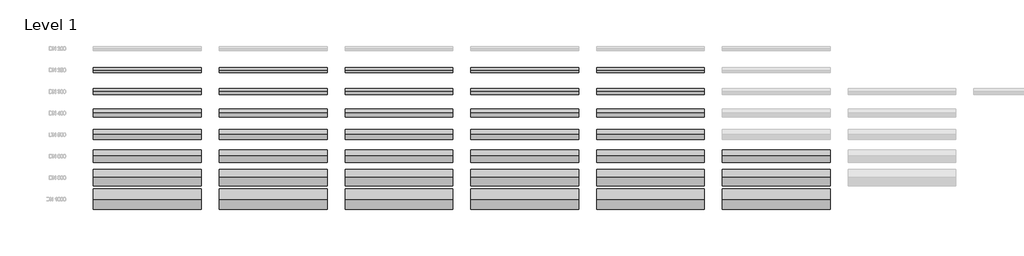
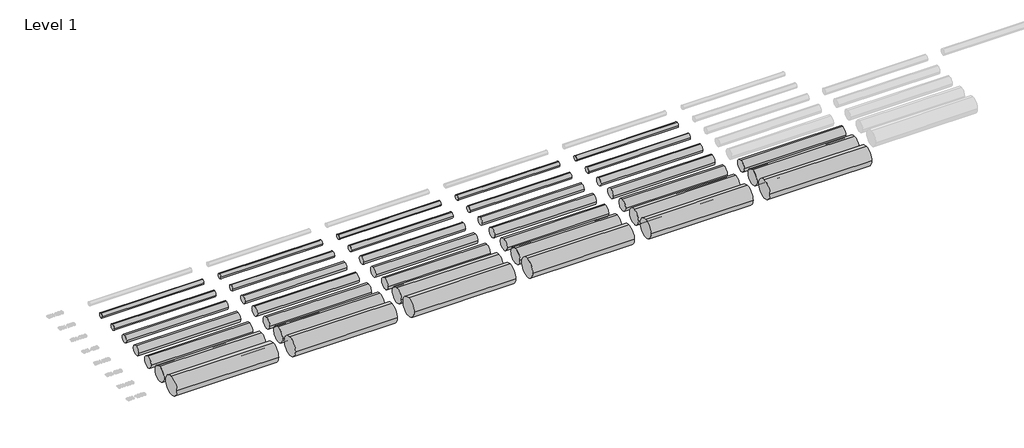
# One storey, part 1 of 10: 38 pipe segments.
"""IFC4 building model written with IfcOpenShell, lengths in millimetres."""

from ifc_helpers import new_model, si_unit, point, frame, frame_2d, origin, place, context, project, spatial, circle_curve, trimmed, segment, composite_curve, outline, extrude, element, save

model = new_model("IFC4")

# Units and contexts
model_context = context("Model", 3, world=origin())
ifc_project = project(units=[si_unit("LENGTHUNIT", "METRE", prefix="MILLI")], contexts=[model_context])

# Site, building, storey
site = spatial("IfcSite", under=ifc_project)
building = spatial("IfcBuilding", under=site)
storey = spatial("IfcBuildingStorey", under=building, Name="Level 1", Elevation=0.0)

# Pipe segments
placement = place(None, origin())
element("IfcPipeSegment", 1, ObjectType="Pipelife Pragma +ID® rura perforowana o podwójnej ściance SN 8 - perforacja 120°", at=placement, inside=storey, context=model_context, shape_type="SweptSolid", body=[
    extrude(outline(composite_curve([segment(trimmed(circle_curve(frame_2d((-613.949573, 0.0)), 142.5), [point((-756.449573, 0.0))], [point((-613.949573, 142.5))], False, "CARTESIAN"), True, "CONTINUOUS"), segment(trimmed(circle_curve(frame_2d((-613.949573, 0.0)), 142.5), [point((-613.949573, 142.5))], [point((-471.449573, 0.0))], False, "CARTESIAN"), True, "CONTINUOUS"), segment(trimmed(circle_curve(frame_2d((-613.949573, 0.0)), 142.5), [point((-471.449573, 0.0))], [point((-613.949573, -142.5))], False, "CARTESIAN"), True, "CONTINUOUS"), segment(trimmed(circle_curve(frame_2d((-613.949573, 0.0)), 142.5), [point((-613.949573, -142.5))], [point((-756.449573, 0.0))], False, "CARTESIAN"), True, "CONTINUOUS")], self_intersect=False)), frame((-17032.6671252, 0.0, 0.0), z_axis=(1.0, 0.0, 0.0), x_axis=(0.0, 1.0, 0.0)), (0.0, 0.0, 1.0), 6000.0),
])
element("IfcPipeSegment", 2, ObjectType="Pipelife Pragma +ID® rura perforowana o podwójnej ściance SN 8 - perforacja 120°", at=placement, inside=storey, context=model_context, shape_type="SweptSolid", body=[
    extrude(outline(composite_curve([segment(trimmed(circle_curve(frame_2d((-1813.949573, 0.0)), 171.5), [point((-1985.449573, 0.0))], [point((-1813.949573, 171.5))], False, "CARTESIAN"), True, "CONTINUOUS"), segment(trimmed(circle_curve(frame_2d((-1813.949573, 0.0)), 171.5), [point((-1813.949573, 171.5))], [point((-1642.449573, 0.0))], False, "CARTESIAN"), True, "CONTINUOUS"), segment(trimmed(circle_curve(frame_2d((-1813.949573, 0.0)), 171.5), [point((-1642.449573, 0.0))], [point((-1813.949573, -171.5))], False, "CARTESIAN"), True, "CONTINUOUS"), segment(trimmed(circle_curve(frame_2d((-1813.949573, 0.0)), 171.5), [point((-1813.949573, -171.5))], [point((-1985.449573, 0.0))], False, "CARTESIAN"), True, "CONTINUOUS")], self_intersect=False)), frame((-17032.6671252, 0.0, 0.0), z_axis=(1.0, 0.0, 0.0), x_axis=(0.0, 1.0, 0.0)), (0.0, 0.0, 1.0), 6000.0),
])
element("IfcPipeSegment", 3, ObjectType="Pipelife Pragma +ID® rura perforowana o podwójnej ściance SN 8 - perforacja 120°", at=placement, inside=storey, context=model_context, shape_type="SweptSolid", body=[
    extrude(outline(composite_curve([segment(trimmed(circle_curve(frame_2d((-3013.949573, 0.0)), 229.0), [point((-3242.949573, 0.0))], [point((-3013.949573, 229.0))], False, "CARTESIAN"), True, "CONTINUOUS"), segment(trimmed(circle_curve(frame_2d((-3013.949573, 0.0)), 229.0), [point((-3013.949573, 229.0))], [point((-2784.949573, 0.0))], False, "CARTESIAN"), True, "CONTINUOUS"), segment(trimmed(circle_curve(frame_2d((-3013.949573, 0.0)), 229.0), [point((-2784.949573, 0.0))], [point((-3013.949573, -229.0))], False, "CARTESIAN"), True, "CONTINUOUS"), segment(trimmed(circle_curve(frame_2d((-3013.949573, 0.0)), 229.0), [point((-3013.949573, -229.0))], [point((-3242.949573, 0.0))], False, "CARTESIAN"), True, "CONTINUOUS")], self_intersect=False)), frame((-17032.6671252, 0.0, 0.0), z_axis=(1.0, 0.0, 0.0), x_axis=(0.0, 1.0, 0.0)), (0.0, 0.0, 1.0), 6000.0),
])
element("IfcPipeSegment", 4, ObjectType="Pipelife Pragma +ID® rura perforowana o podwójnej ściance SN 8 - perforacja 120°", at=placement, inside=storey, context=model_context, shape_type="SweptSolid", body=[
    extrude(outline(composite_curve([segment(trimmed(circle_curve(frame_2d((-4213.949573, 0.0)), 286.5), [point((-4500.449573, 0.0))], [point((-4213.949573, 286.5))], False, "CARTESIAN"), True, "CONTINUOUS"), segment(trimmed(circle_curve(frame_2d((-4213.949573, 0.0)), 286.5), [point((-4213.949573, 286.5))], [point((-3927.449573, 0.0))], False, "CARTESIAN"), True, "CONTINUOUS"), segment(trimmed(circle_curve(frame_2d((-4213.949573, 0.0)), 286.5), [point((-3927.449573, 0.0))], [point((-4213.949573, -286.5))], False, "CARTESIAN"), True, "CONTINUOUS"), segment(trimmed(circle_curve(frame_2d((-4213.949573, 0.0)), 286.5), [point((-4213.949573, -286.5))], [point((-4500.449573, 0.0))], False, "CARTESIAN"), True, "CONTINUOUS")], self_intersect=False)), frame((-17032.6671252, 0.0, 0.0), z_axis=(1.0, 0.0, 0.0), x_axis=(0.0, 1.0, 0.0)), (0.0, 0.0, 1.0), 6000.0),
])
element("IfcPipeSegment", 5, ObjectType="Pipelife Pragma +ID® rura perforowana o podwójnej ściance SN 8 - perforacja 120°", at=placement, inside=storey, context=model_context, shape_type="SweptSolid", body=[
    extrude(outline(composite_curve([segment(trimmed(circle_curve(frame_2d((-5413.949573, 0.0)), 344.0), [point((-5757.949573, 0.0))], [point((-5413.949573, 344.0))], False, "CARTESIAN"), True, "CONTINUOUS"), segment(trimmed(circle_curve(frame_2d((-5413.949573, 0.0)), 344.0), [point((-5413.949573, 344.0))], [point((-5069.949573, 0.0))], False, "CARTESIAN"), True, "CONTINUOUS"), segment(trimmed(circle_curve(frame_2d((-5413.949573, 0.0)), 344.0), [point((-5069.949573, 0.0))], [point((-5413.949573, -344.0))], False, "CARTESIAN"), True, "CONTINUOUS"), segment(trimmed(circle_curve(frame_2d((-5413.949573, 0.0)), 344.0), [point((-5413.949573, -344.0))], [point((-5757.949573, 0.0))], False, "CARTESIAN"), True, "CONTINUOUS")], self_intersect=False)), frame((-17032.6671252, 0.0, 0.0), z_axis=(1.0, 0.0, 0.0), x_axis=(0.0, 1.0, 0.0)), (0.0, 0.0, 1.0), 6000.0),
])
element("IfcPipeSegment", 6, ObjectType="Pipelife Pragma +ID® rura perforowana o podwójnej ściance SN 8 - perforacja 120°", at=placement, inside=storey, context=model_context, shape_type="SweptSolid", body=[
    extrude(outline(composite_curve([segment(trimmed(circle_curve(frame_2d((-6613.949573, 0.0)), 462.5), [point((-7076.449573, 0.0))], [point((-6613.949573, 462.5))], False, "CARTESIAN"), True, "CONTINUOUS"), segment(trimmed(circle_curve(frame_2d((-6613.949573, 0.0)), 462.5), [point((-6613.949573, 462.5))], [point((-6151.449573, 0.0))], False, "CARTESIAN"), True, "CONTINUOUS"), segment(trimmed(circle_curve(frame_2d((-6613.949573, 0.0)), 462.5), [point((-6151.449573, 0.0))], [point((-6613.949573, -462.5))], False, "CARTESIAN"), True, "CONTINUOUS"), segment(trimmed(circle_curve(frame_2d((-6613.949573, 0.0)), 462.5), [point((-6613.949573, -462.5))], [point((-7076.449573, 0.0))], False, "CARTESIAN"), True, "CONTINUOUS")], self_intersect=False)), frame((-17032.6671252, 0.0, 0.0), z_axis=(1.0, 0.0, 0.0), x_axis=(0.0, 1.0, 0.0)), (0.0, 0.0, 1.0), 6000.0),
])
element("IfcPipeSegment", 7, ObjectType="Pipelife Pragma +ID® rura perforowana o podwójnej ściance SN 8 - perforacja 120°", at=placement, inside=storey, context=model_context, shape_type="SweptSolid", body=[
    extrude(outline(composite_curve([segment(trimmed(circle_curve(frame_2d((-7813.949573, 0.0)), 570.0), [point((-8383.949573, 0.0))], [point((-7813.949573, 570.0))], False, "CARTESIAN"), True, "CONTINUOUS"), segment(trimmed(circle_curve(frame_2d((-7813.949573, 0.0)), 570.0), [point((-7813.949573, 570.0))], [point((-7243.949573, 0.0))], False, "CARTESIAN"), True, "CONTINUOUS"), segment(trimmed(circle_curve(frame_2d((-7813.949573, 0.0)), 570.0), [point((-7243.949573, 0.0))], [point((-7813.949573, -570.0))], False, "CARTESIAN"), True, "CONTINUOUS"), segment(trimmed(circle_curve(frame_2d((-7813.949573, 0.0)), 570.0), [point((-7813.949573, -570.0))], [point((-8383.949573, 0.0))], False, "CARTESIAN"), True, "CONTINUOUS")], self_intersect=False)), frame((-17032.6671252, 0.0, 0.0), z_axis=(1.0, 0.0, 0.0), x_axis=(0.0, 1.0, 0.0)), (0.0, 0.0, 1.0), 6000.0),
])
element("IfcPipeSegment", 8, ObjectType="Pipelife Pragma +ID® rura perforowana o podwójnej ściance SN 8 - perforacja 220°", at=placement, inside=storey, context=model_context, shape_type="SweptSolid", body=[
    extrude(outline(composite_curve([segment(trimmed(circle_curve(frame_2d((-613.949573, 0.0)), 142.5), [point((-756.449573, 0.0))], [point((-613.949573, 142.5))], False, "CARTESIAN"), True, "CONTINUOUS"), segment(trimmed(circle_curve(frame_2d((-613.949573, 0.0)), 142.5), [point((-613.949573, 142.5))], [point((-471.449573, 0.0))], False, "CARTESIAN"), True, "CONTINUOUS"), segment(trimmed(circle_curve(frame_2d((-613.949573, 0.0)), 142.5), [point((-471.449573, 0.0))], [point((-613.949573, -142.5))], False, "CARTESIAN"), True, "CONTINUOUS"), segment(trimmed(circle_curve(frame_2d((-613.949573, 0.0)), 142.5), [point((-613.949573, -142.5))], [point((-756.449573, 0.0))], False, "CARTESIAN"), True, "CONTINUOUS")], self_intersect=False)), frame((-10032.6671252, 0.0, 0.0), z_axis=(1.0, 0.0, 0.0), x_axis=(0.0, 1.0, 0.0)), (0.0, 0.0, 1.0), 6000.0),
])
element("IfcPipeSegment", 9, ObjectType="Pipelife Pragma +ID® rura perforowana o podwójnej ściance SN 8 - perforacja 220°", at=placement, inside=storey, context=model_context, shape_type="SweptSolid", body=[
    extrude(outline(composite_curve([segment(trimmed(circle_curve(frame_2d((-1813.949573, 0.0)), 171.5), [point((-1985.449573, 0.0))], [point((-1813.949573, 171.5))], False, "CARTESIAN"), True, "CONTINUOUS"), segment(trimmed(circle_curve(frame_2d((-1813.949573, 0.0)), 171.5), [point((-1813.949573, 171.5))], [point((-1642.449573, 0.0))], False, "CARTESIAN"), True, "CONTINUOUS"), segment(trimmed(circle_curve(frame_2d((-1813.949573, 0.0)), 171.5), [point((-1642.449573, 0.0))], [point((-1813.949573, -171.5))], False, "CARTESIAN"), True, "CONTINUOUS"), segment(trimmed(circle_curve(frame_2d((-1813.949573, 0.0)), 171.5), [point((-1813.949573, -171.5))], [point((-1985.449573, 0.0))], False, "CARTESIAN"), True, "CONTINUOUS")], self_intersect=False)), frame((-10032.6671252, 0.0, 0.0), z_axis=(1.0, 0.0, 0.0), x_axis=(0.0, 1.0, 0.0)), (0.0, 0.0, 1.0), 6000.0),
])
element("IfcPipeSegment", 10, ObjectType="Pipelife Pragma +ID® rura perforowana o podwójnej ściance SN 8 - perforacja 220°", at=placement, inside=storey, context=model_context, shape_type="SweptSolid", body=[
    extrude(outline(composite_curve([segment(trimmed(circle_curve(frame_2d((-3013.949573, 0.0)), 229.0), [point((-3242.949573, 0.0))], [point((-3013.949573, 229.0))], False, "CARTESIAN"), True, "CONTINUOUS"), segment(trimmed(circle_curve(frame_2d((-3013.949573, 0.0)), 229.0), [point((-3013.949573, 229.0))], [point((-2784.949573, 0.0))], False, "CARTESIAN"), True, "CONTINUOUS"), segment(trimmed(circle_curve(frame_2d((-3013.949573, 0.0)), 229.0), [point((-2784.949573, 0.0))], [point((-3013.949573, -229.0))], False, "CARTESIAN"), True, "CONTINUOUS"), segment(trimmed(circle_curve(frame_2d((-3013.949573, 0.0)), 229.0), [point((-3013.949573, -229.0))], [point((-3242.949573, 0.0))], False, "CARTESIAN"), True, "CONTINUOUS")], self_intersect=False)), frame((-10032.6671252, 0.0, 0.0), z_axis=(1.0, 0.0, 0.0), x_axis=(0.0, 1.0, 0.0)), (0.0, 0.0, 1.0), 6000.0),
])
element("IfcPipeSegment", 11, ObjectType="Pipelife Pragma +ID® rura perforowana o podwójnej ściance SN 8 - perforacja 220°", at=placement, inside=storey, context=model_context, shape_type="SweptSolid", body=[
    extrude(outline(composite_curve([segment(trimmed(circle_curve(frame_2d((-4213.949573, 0.0)), 286.5), [point((-4500.449573, 0.0))], [point((-4213.949573, 286.5))], False, "CARTESIAN"), True, "CONTINUOUS"), segment(trimmed(circle_curve(frame_2d((-4213.949573, 0.0)), 286.5), [point((-4213.949573, 286.5))], [point((-3927.449573, 0.0))], False, "CARTESIAN"), True, "CONTINUOUS"), segment(trimmed(circle_curve(frame_2d((-4213.949573, 0.0)), 286.5), [point((-3927.449573, 0.0))], [point((-4213.949573, -286.5))], False, "CARTESIAN"), True, "CONTINUOUS"), segment(trimmed(circle_curve(frame_2d((-4213.949573, 0.0)), 286.5), [point((-4213.949573, -286.5))], [point((-4500.449573, 0.0))], False, "CARTESIAN"), True, "CONTINUOUS")], self_intersect=False)), frame((-10032.6671252, 0.0, 0.0), z_axis=(1.0, 0.0, 0.0), x_axis=(0.0, 1.0, 0.0)), (0.0, 0.0, 1.0), 6000.0),
])
element("IfcPipeSegment", 12, ObjectType="Pipelife Pragma +ID® rura perforowana o podwójnej ściance SN 8 - perforacja 220°", at=placement, inside=storey, context=model_context, shape_type="SweptSolid", body=[
    extrude(outline(composite_curve([segment(trimmed(circle_curve(frame_2d((-5413.949573, 0.0)), 344.0), [point((-5757.949573, 0.0))], [point((-5413.949573, 344.0))], False, "CARTESIAN"), True, "CONTINUOUS"), segment(trimmed(circle_curve(frame_2d((-5413.949573, 0.0)), 344.0), [point((-5413.949573, 344.0))], [point((-5069.949573, 0.0))], False, "CARTESIAN"), True, "CONTINUOUS"), segment(trimmed(circle_curve(frame_2d((-5413.949573, 0.0)), 344.0), [point((-5069.949573, 0.0))], [point((-5413.949573, -344.0))], False, "CARTESIAN"), True, "CONTINUOUS"), segment(trimmed(circle_curve(frame_2d((-5413.949573, 0.0)), 344.0), [point((-5413.949573, -344.0))], [point((-5757.949573, 0.0))], False, "CARTESIAN"), True, "CONTINUOUS")], self_intersect=False)), frame((-10032.6671252, 0.0, 0.0), z_axis=(1.0, 0.0, 0.0), x_axis=(0.0, 1.0, 0.0)), (0.0, 0.0, 1.0), 6000.0),
])
element("IfcPipeSegment", 13, ObjectType="Pipelife Pragma +ID® rura perforowana o podwójnej ściance SN 8 - perforacja 220°", at=placement, inside=storey, context=model_context, shape_type="SweptSolid", body=[
    extrude(outline(composite_curve([segment(trimmed(circle_curve(frame_2d((-6613.949573, 0.0)), 462.5), [point((-7076.449573, 0.0))], [point((-6613.949573, 462.5))], False, "CARTESIAN"), True, "CONTINUOUS"), segment(trimmed(circle_curve(frame_2d((-6613.949573, 0.0)), 462.5), [point((-6613.949573, 462.5))], [point((-6151.449573, 0.0))], False, "CARTESIAN"), True, "CONTINUOUS"), segment(trimmed(circle_curve(frame_2d((-6613.949573, 0.0)), 462.5), [point((-6151.449573, 0.0))], [point((-6613.949573, -462.5))], False, "CARTESIAN"), True, "CONTINUOUS"), segment(trimmed(circle_curve(frame_2d((-6613.949573, 0.0)), 462.5), [point((-6613.949573, -462.5))], [point((-7076.449573, 0.0))], False, "CARTESIAN"), True, "CONTINUOUS")], self_intersect=False)), frame((-10032.6671252, 0.0, 0.0), z_axis=(1.0, 0.0, 0.0), x_axis=(0.0, 1.0, 0.0)), (0.0, 0.0, 1.0), 6000.0),
])
element("IfcPipeSegment", 14, ObjectType="Pipelife Pragma +ID® rura perforowana o podwójnej ściance SN 8 - perforacja 220°", at=placement, inside=storey, context=model_context, shape_type="SweptSolid", body=[
    extrude(outline(composite_curve([segment(trimmed(circle_curve(frame_2d((-7813.949573, 0.0)), 570.0), [point((-8383.949573, 0.0))], [point((-7813.949573, 570.0))], False, "CARTESIAN"), True, "CONTINUOUS"), segment(trimmed(circle_curve(frame_2d((-7813.949573, 0.0)), 570.0), [point((-7813.949573, 570.0))], [point((-7243.949573, 0.0))], False, "CARTESIAN"), True, "CONTINUOUS"), segment(trimmed(circle_curve(frame_2d((-7813.949573, 0.0)), 570.0), [point((-7243.949573, 0.0))], [point((-7813.949573, -570.0))], False, "CARTESIAN"), True, "CONTINUOUS"), segment(trimmed(circle_curve(frame_2d((-7813.949573, 0.0)), 570.0), [point((-7813.949573, -570.0))], [point((-8383.949573, 0.0))], False, "CARTESIAN"), True, "CONTINUOUS")], self_intersect=False)), frame((-10032.6671252, 0.0, 0.0), z_axis=(1.0, 0.0, 0.0), x_axis=(0.0, 1.0, 0.0)), (0.0, 0.0, 1.0), 6000.0),
])
element("IfcPipeSegment", 15, ObjectType="Pipelife Pragma +ID® rura perforowana o podwójnej ściance SN 8 - perforacja 360°", at=placement, inside=storey, context=model_context, shape_type="SweptSolid", body=[
    extrude(outline(composite_curve([segment(trimmed(circle_curve(frame_2d((-613.949573, 0.0)), 142.5), [point((-756.449573, 0.0))], [point((-613.949573, 142.5))], False, "CARTESIAN"), True, "CONTINUOUS"), segment(trimmed(circle_curve(frame_2d((-613.949573, 0.0)), 142.5), [point((-613.949573, 142.5))], [point((-471.449573, 0.0))], False, "CARTESIAN"), True, "CONTINUOUS"), segment(trimmed(circle_curve(frame_2d((-613.949573, 0.0)), 142.5), [point((-471.449573, 0.0))], [point((-613.949573, -142.5))], False, "CARTESIAN"), True, "CONTINUOUS"), segment(trimmed(circle_curve(frame_2d((-613.949573, 0.0)), 142.5), [point((-613.949573, -142.5))], [point((-756.449573, 0.0))], False, "CARTESIAN"), True, "CONTINUOUS")], self_intersect=False)), frame((-3032.6671252, 0.0, 0.0), z_axis=(1.0, 0.0, 0.0), x_axis=(0.0, 1.0, 0.0)), (0.0, 0.0, 1.0), 6000.0),
])
element("IfcPipeSegment", 16, ObjectType="Pipelife Pragma +ID® rura perforowana o podwójnej ściance SN 8 - perforacja 360°", at=placement, inside=storey, context=model_context, shape_type="SweptSolid", body=[
    extrude(outline(composite_curve([segment(trimmed(circle_curve(frame_2d((-1813.949573, 0.0)), 171.5), [point((-1985.449573, 0.0))], [point((-1813.949573, 171.5))], False, "CARTESIAN"), True, "CONTINUOUS"), segment(trimmed(circle_curve(frame_2d((-1813.949573, 0.0)), 171.5), [point((-1813.949573, 171.5))], [point((-1642.449573, 0.0))], False, "CARTESIAN"), True, "CONTINUOUS"), segment(trimmed(circle_curve(frame_2d((-1813.949573, 0.0)), 171.5), [point((-1642.449573, 0.0))], [point((-1813.949573, -171.5))], False, "CARTESIAN"), True, "CONTINUOUS"), segment(trimmed(circle_curve(frame_2d((-1813.949573, 0.0)), 171.5), [point((-1813.949573, -171.5))], [point((-1985.449573, 0.0))], False, "CARTESIAN"), True, "CONTINUOUS")], self_intersect=False)), frame((-3032.6671252, 0.0, 0.0), z_axis=(1.0, 0.0, 0.0), x_axis=(0.0, 1.0, 0.0)), (0.0, 0.0, 1.0), 6000.0),
])
element("IfcPipeSegment", 17, ObjectType="Pipelife Pragma +ID® rura perforowana o podwójnej ściance SN 8 - perforacja 360°", at=placement, inside=storey, context=model_context, shape_type="SweptSolid", body=[
    extrude(outline(composite_curve([segment(trimmed(circle_curve(frame_2d((-3013.949573, 0.0)), 229.0), [point((-3242.949573, 0.0))], [point((-3013.949573, 229.0))], False, "CARTESIAN"), True, "CONTINUOUS"), segment(trimmed(circle_curve(frame_2d((-3013.949573, 0.0)), 229.0), [point((-3013.949573, 229.0))], [point((-2784.949573, 0.0))], False, "CARTESIAN"), True, "CONTINUOUS"), segment(trimmed(circle_curve(frame_2d((-3013.949573, 0.0)), 229.0), [point((-2784.949573, 0.0))], [point((-3013.949573, -229.0))], False, "CARTESIAN"), True, "CONTINUOUS"), segment(trimmed(circle_curve(frame_2d((-3013.949573, 0.0)), 229.0), [point((-3013.949573, -229.0))], [point((-3242.949573, 0.0))], False, "CARTESIAN"), True, "CONTINUOUS")], self_intersect=False)), frame((-3032.6671252, 0.0, 0.0), z_axis=(1.0, 0.0, 0.0), x_axis=(0.0, 1.0, 0.0)), (0.0, 0.0, 1.0), 6000.0),
])
element("IfcPipeSegment", 18, ObjectType="Pipelife Pragma +ID® rura perforowana o podwójnej ściance SN 8 - perforacja 360°", at=placement, inside=storey, context=model_context, shape_type="SweptSolid", body=[
    extrude(outline(composite_curve([segment(trimmed(circle_curve(frame_2d((-4213.949573, 0.0)), 286.5), [point((-4500.449573, 0.0))], [point((-4213.949573, 286.5))], False, "CARTESIAN"), True, "CONTINUOUS"), segment(trimmed(circle_curve(frame_2d((-4213.949573, 0.0)), 286.5), [point((-4213.949573, 286.5))], [point((-3927.449573, 0.0))], False, "CARTESIAN"), True, "CONTINUOUS"), segment(trimmed(circle_curve(frame_2d((-4213.949573, 0.0)), 286.5), [point((-3927.449573, 0.0))], [point((-4213.949573, -286.5))], False, "CARTESIAN"), True, "CONTINUOUS"), segment(trimmed(circle_curve(frame_2d((-4213.949573, 0.0)), 286.5), [point((-4213.949573, -286.5))], [point((-4500.449573, 0.0))], False, "CARTESIAN"), True, "CONTINUOUS")], self_intersect=False)), frame((-3032.6671252, 0.0, 0.0), z_axis=(1.0, 0.0, 0.0), x_axis=(0.0, 1.0, 0.0)), (0.0, 0.0, 1.0), 6000.0),
])
element("IfcPipeSegment", 19, ObjectType="Pipelife Pragma +ID® rura perforowana o podwójnej ściance SN 8 - perforacja 360°", at=placement, inside=storey, context=model_context, shape_type="SweptSolid", body=[
    extrude(outline(composite_curve([segment(trimmed(circle_curve(frame_2d((-5413.949573, 0.0)), 344.0), [point((-5757.949573, 0.0))], [point((-5413.949573, 344.0))], False, "CARTESIAN"), True, "CONTINUOUS"), segment(trimmed(circle_curve(frame_2d((-5413.949573, 0.0)), 344.0), [point((-5413.949573, 344.0))], [point((-5069.949573, 0.0))], False, "CARTESIAN"), True, "CONTINUOUS"), segment(trimmed(circle_curve(frame_2d((-5413.949573, 0.0)), 344.0), [point((-5069.949573, 0.0))], [point((-5413.949573, -344.0))], False, "CARTESIAN"), True, "CONTINUOUS"), segment(trimmed(circle_curve(frame_2d((-5413.949573, 0.0)), 344.0), [point((-5413.949573, -344.0))], [point((-5757.949573, 0.0))], False, "CARTESIAN"), True, "CONTINUOUS")], self_intersect=False)), frame((-3032.6671252, 0.0, 0.0), z_axis=(1.0, 0.0, 0.0), x_axis=(0.0, 1.0, 0.0)), (0.0, 0.0, 1.0), 6000.0),
])
element("IfcPipeSegment", 20, ObjectType="Pipelife Pragma +ID® rura perforowana o podwójnej ściance SN 8 - perforacja 360°", at=placement, inside=storey, context=model_context, shape_type="SweptSolid", body=[
    extrude(outline(composite_curve([segment(trimmed(circle_curve(frame_2d((-6613.949573, 0.0)), 462.5), [point((-7076.449573, 0.0))], [point((-6613.949573, 462.5))], False, "CARTESIAN"), True, "CONTINUOUS"), segment(trimmed(circle_curve(frame_2d((-6613.949573, 0.0)), 462.5), [point((-6613.949573, 462.5))], [point((-6151.449573, 0.0))], False, "CARTESIAN"), True, "CONTINUOUS"), segment(trimmed(circle_curve(frame_2d((-6613.949573, 0.0)), 462.5), [point((-6151.449573, 0.0))], [point((-6613.949573, -462.5))], False, "CARTESIAN"), True, "CONTINUOUS"), segment(trimmed(circle_curve(frame_2d((-6613.949573, 0.0)), 462.5), [point((-6613.949573, -462.5))], [point((-7076.449573, 0.0))], False, "CARTESIAN"), True, "CONTINUOUS")], self_intersect=False)), frame((-3032.6671252, 0.0, 0.0), z_axis=(1.0, 0.0, 0.0), x_axis=(0.0, 1.0, 0.0)), (0.0, 0.0, 1.0), 6000.0),
])
element("IfcPipeSegment", 21, ObjectType="Pipelife Pragma +ID® rura perforowana o podwójnej ściance SN 8 - perforacja 360°", at=placement, inside=storey, context=model_context, shape_type="SweptSolid", body=[
    extrude(outline(composite_curve([segment(trimmed(circle_curve(frame_2d((-7813.949573, 0.0)), 570.0), [point((-8383.949573, 0.0))], [point((-7813.949573, 570.0))], False, "CARTESIAN"), True, "CONTINUOUS"), segment(trimmed(circle_curve(frame_2d((-7813.949573, 0.0)), 570.0), [point((-7813.949573, 570.0))], [point((-7243.949573, 0.0))], False, "CARTESIAN"), True, "CONTINUOUS"), segment(trimmed(circle_curve(frame_2d((-7813.949573, 0.0)), 570.0), [point((-7243.949573, 0.0))], [point((-7813.949573, -570.0))], False, "CARTESIAN"), True, "CONTINUOUS"), segment(trimmed(circle_curve(frame_2d((-7813.949573, 0.0)), 570.0), [point((-7813.949573, -570.0))], [point((-8383.949573, 0.0))], False, "CARTESIAN"), True, "CONTINUOUS")], self_intersect=False)), frame((-3032.6671252, 0.0, 0.0), z_axis=(1.0, 0.0, 0.0), x_axis=(0.0, 1.0, 0.0)), (0.0, 0.0, 1.0), 6000.0),
])
element("IfcPipeSegment", 22, ObjectType="Pipelife Pragma +ID® rura perforowana o podwójnej ściance SN 8 w geowłókninie - perforacja 120°", at=placement, inside=storey, context=model_context, shape_type="SweptSolid", body=[
    extrude(outline(composite_curve([segment(trimmed(circle_curve(frame_2d((-613.949573, 0.0)), 142.5), [point((-756.449573, 0.0))], [point((-613.949573, 142.5))], False, "CARTESIAN"), True, "CONTINUOUS"), segment(trimmed(circle_curve(frame_2d((-613.949573, 0.0)), 142.5), [point((-613.949573, 142.5))], [point((-471.449573, 0.0))], False, "CARTESIAN"), True, "CONTINUOUS"), segment(trimmed(circle_curve(frame_2d((-613.949573, 0.0)), 142.5), [point((-471.449573, 0.0))], [point((-613.949573, -142.5))], False, "CARTESIAN"), True, "CONTINUOUS"), segment(trimmed(circle_curve(frame_2d((-613.949573, 0.0)), 142.5), [point((-613.949573, -142.5))], [point((-756.449573, 0.0))], False, "CARTESIAN"), True, "CONTINUOUS")], self_intersect=False)), frame((3967.3328748, 0.0, 0.0), z_axis=(1.0, 0.0, 0.0), x_axis=(0.0, 1.0, 0.0)), (0.0, 0.0, 1.0), 6000.0),
])
element("IfcPipeSegment", 23, ObjectType="Pipelife Pragma +ID® rura perforowana o podwójnej ściance SN 8 w geowłókninie - perforacja 120°", at=placement, inside=storey, context=model_context, shape_type="SweptSolid", body=[
    extrude(outline(composite_curve([segment(trimmed(circle_curve(frame_2d((-1813.949573, 0.0)), 171.5), [point((-1985.449573, 0.0))], [point((-1813.949573, 171.5))], False, "CARTESIAN"), True, "CONTINUOUS"), segment(trimmed(circle_curve(frame_2d((-1813.949573, 0.0)), 171.5), [point((-1813.949573, 171.5))], [point((-1642.449573, 0.0))], False, "CARTESIAN"), True, "CONTINUOUS"), segment(trimmed(circle_curve(frame_2d((-1813.949573, 0.0)), 171.5), [point((-1642.449573, 0.0))], [point((-1813.949573, -171.5))], False, "CARTESIAN"), True, "CONTINUOUS"), segment(trimmed(circle_curve(frame_2d((-1813.949573, 0.0)), 171.5), [point((-1813.949573, -171.5))], [point((-1985.449573, 0.0))], False, "CARTESIAN"), True, "CONTINUOUS")], self_intersect=False)), frame((3967.3328748, 0.0, 0.0), z_axis=(1.0, 0.0, 0.0), x_axis=(0.0, 1.0, 0.0)), (0.0, 0.0, 1.0), 6000.0),
])
element("IfcPipeSegment", 24, ObjectType="Pipelife Pragma +ID® rura perforowana o podwójnej ściance SN 8 w geowłókninie - perforacja 120°", at=placement, inside=storey, context=model_context, shape_type="SweptSolid", body=[
    extrude(outline(composite_curve([segment(trimmed(circle_curve(frame_2d((-3013.949573, 0.0)), 229.0), [point((-3242.949573, 0.0))], [point((-3013.949573, 229.0))], False, "CARTESIAN"), True, "CONTINUOUS"), segment(trimmed(circle_curve(frame_2d((-3013.949573, 0.0)), 229.0), [point((-3013.949573, 229.0))], [point((-2784.949573, 0.0))], False, "CARTESIAN"), True, "CONTINUOUS"), segment(trimmed(circle_curve(frame_2d((-3013.949573, 0.0)), 229.0), [point((-2784.949573, 0.0))], [point((-3013.949573, -229.0))], False, "CARTESIAN"), True, "CONTINUOUS"), segment(trimmed(circle_curve(frame_2d((-3013.949573, 0.0)), 229.0), [point((-3013.949573, -229.0))], [point((-3242.949573, 0.0))], False, "CARTESIAN"), True, "CONTINUOUS")], self_intersect=False)), frame((3967.3328748, 0.0, 0.0), z_axis=(1.0, 0.0, 0.0), x_axis=(0.0, 1.0, 0.0)), (0.0, 0.0, 1.0), 6000.0),
])
element("IfcPipeSegment", 25, ObjectType="Pipelife Pragma +ID® rura perforowana o podwójnej ściance SN 8 w geowłókninie - perforacja 120°", at=placement, inside=storey, context=model_context, shape_type="SweptSolid", body=[
    extrude(outline(composite_curve([segment(trimmed(circle_curve(frame_2d((-4213.949573, 0.0)), 286.5), [point((-4500.449573, 0.0))], [point((-4213.949573, 286.5))], False, "CARTESIAN"), True, "CONTINUOUS"), segment(trimmed(circle_curve(frame_2d((-4213.949573, 0.0)), 286.5), [point((-4213.949573, 286.5))], [point((-3927.449573, 0.0))], False, "CARTESIAN"), True, "CONTINUOUS"), segment(trimmed(circle_curve(frame_2d((-4213.949573, 0.0)), 286.5), [point((-3927.449573, 0.0))], [point((-4213.949573, -286.5))], False, "CARTESIAN"), True, "CONTINUOUS"), segment(trimmed(circle_curve(frame_2d((-4213.949573, 0.0)), 286.5), [point((-4213.949573, -286.5))], [point((-4500.449573, 0.0))], False, "CARTESIAN"), True, "CONTINUOUS")], self_intersect=False)), frame((3967.3328748, 0.0, 0.0), z_axis=(1.0, 0.0, 0.0), x_axis=(0.0, 1.0, 0.0)), (0.0, 0.0, 1.0), 6000.0),
])
element("IfcPipeSegment", 26, ObjectType="Pipelife Pragma +ID® rura perforowana o podwójnej ściance SN 8 w geowłókninie - perforacja 120°", at=placement, inside=storey, context=model_context, shape_type="SweptSolid", body=[
    extrude(outline(composite_curve([segment(trimmed(circle_curve(frame_2d((-5413.949573, 0.0)), 344.0), [point((-5757.949573, 0.0))], [point((-5413.949573, 344.0))], False, "CARTESIAN"), True, "CONTINUOUS"), segment(trimmed(circle_curve(frame_2d((-5413.949573, 0.0)), 344.0), [point((-5413.949573, 344.0))], [point((-5069.949573, 0.0))], False, "CARTESIAN"), True, "CONTINUOUS"), segment(trimmed(circle_curve(frame_2d((-5413.949573, 0.0)), 344.0), [point((-5069.949573, 0.0))], [point((-5413.949573, -344.0))], False, "CARTESIAN"), True, "CONTINUOUS"), segment(trimmed(circle_curve(frame_2d((-5413.949573, 0.0)), 344.0), [point((-5413.949573, -344.0))], [point((-5757.949573, 0.0))], False, "CARTESIAN"), True, "CONTINUOUS")], self_intersect=False)), frame((3967.3328748, 0.0, 0.0), z_axis=(1.0, 0.0, 0.0), x_axis=(0.0, 1.0, 0.0)), (0.0, 0.0, 1.0), 6000.0),
])
element("IfcPipeSegment", 27, ObjectType="Pipelife Pragma +ID® rura perforowana o podwójnej ściance SN 8 w geowłókninie - perforacja 120°", at=placement, inside=storey, context=model_context, shape_type="SweptSolid", body=[
    extrude(outline(composite_curve([segment(trimmed(circle_curve(frame_2d((-6613.949573, 0.0)), 462.5), [point((-7076.449573, 0.0))], [point((-6613.949573, 462.5))], False, "CARTESIAN"), True, "CONTINUOUS"), segment(trimmed(circle_curve(frame_2d((-6613.949573, 0.0)), 462.5), [point((-6613.949573, 462.5))], [point((-6151.449573, 0.0))], False, "CARTESIAN"), True, "CONTINUOUS"), segment(trimmed(circle_curve(frame_2d((-6613.949573, 0.0)), 462.5), [point((-6151.449573, 0.0))], [point((-6613.949573, -462.5))], False, "CARTESIAN"), True, "CONTINUOUS"), segment(trimmed(circle_curve(frame_2d((-6613.949573, 0.0)), 462.5), [point((-6613.949573, -462.5))], [point((-7076.449573, 0.0))], False, "CARTESIAN"), True, "CONTINUOUS")], self_intersect=False)), frame((3967.3328748, 0.0, 0.0), z_axis=(1.0, 0.0, 0.0), x_axis=(0.0, 1.0, 0.0)), (0.0, 0.0, 1.0), 6000.0),
])
element("IfcPipeSegment", 28, ObjectType="Pipelife Pragma +ID® rura perforowana o podwójnej ściance SN 8 w geowłókninie - perforacja 120°", at=placement, inside=storey, context=model_context, shape_type="SweptSolid", body=[
    extrude(outline(composite_curve([segment(trimmed(circle_curve(frame_2d((-7813.949573, 0.0)), 570.0), [point((-8383.949573, 0.0))], [point((-7813.949573, 570.0))], False, "CARTESIAN"), True, "CONTINUOUS"), segment(trimmed(circle_curve(frame_2d((-7813.949573, 0.0)), 570.0), [point((-7813.949573, 570.0))], [point((-7243.949573, 0.0))], False, "CARTESIAN"), True, "CONTINUOUS"), segment(trimmed(circle_curve(frame_2d((-7813.949573, 0.0)), 570.0), [point((-7243.949573, 0.0))], [point((-7813.949573, -570.0))], False, "CARTESIAN"), True, "CONTINUOUS"), segment(trimmed(circle_curve(frame_2d((-7813.949573, 0.0)), 570.0), [point((-7813.949573, -570.0))], [point((-8383.949573, 0.0))], False, "CARTESIAN"), True, "CONTINUOUS")], self_intersect=False)), frame((3967.3328748, 0.0, 0.0), z_axis=(1.0, 0.0, 0.0), x_axis=(0.0, 1.0, 0.0)), (0.0, 0.0, 1.0), 6000.0),
])
element("IfcPipeSegment", 29, ObjectType="Pipelife Pragma +ID® rura perforowana o podwójnej ściance SN 8 w geowłókninie - perforacja 220°", at=placement, inside=storey, context=model_context, shape_type="SweptSolid", body=[
    extrude(outline(composite_curve([segment(trimmed(circle_curve(frame_2d((-613.949573, 0.0)), 142.5), [point((-756.449573, 0.0))], [point((-613.949573, 142.5))], False, "CARTESIAN"), True, "CONTINUOUS"), segment(trimmed(circle_curve(frame_2d((-613.949573, 0.0)), 142.5), [point((-613.949573, 142.5))], [point((-471.449573, 0.0))], False, "CARTESIAN"), True, "CONTINUOUS"), segment(trimmed(circle_curve(frame_2d((-613.949573, 0.0)), 142.5), [point((-471.449573, 0.0))], [point((-613.949573, -142.5))], False, "CARTESIAN"), True, "CONTINUOUS"), segment(trimmed(circle_curve(frame_2d((-613.949573, 0.0)), 142.5), [point((-613.949573, -142.5))], [point((-756.449573, 0.0))], False, "CARTESIAN"), True, "CONTINUOUS")], self_intersect=False)), frame((10967.3328748, 0.0, 0.0), z_axis=(1.0, 0.0, 0.0), x_axis=(0.0, 1.0, 0.0)), (0.0, 0.0, 1.0), 6000.0),
])
element("IfcPipeSegment", 30, ObjectType="Pipelife Pragma +ID® rura perforowana o podwójnej ściance SN 8 w geowłókninie - perforacja 220°", at=placement, inside=storey, context=model_context, shape_type="SweptSolid", body=[
    extrude(outline(composite_curve([segment(trimmed(circle_curve(frame_2d((-1813.949573, 0.0)), 171.5), [point((-1985.449573, 0.0))], [point((-1813.949573, 171.5))], False, "CARTESIAN"), True, "CONTINUOUS"), segment(trimmed(circle_curve(frame_2d((-1813.949573, 0.0)), 171.5), [point((-1813.949573, 171.5))], [point((-1642.449573, 0.0))], False, "CARTESIAN"), True, "CONTINUOUS"), segment(trimmed(circle_curve(frame_2d((-1813.949573, 0.0)), 171.5), [point((-1642.449573, 0.0))], [point((-1813.949573, -171.5))], False, "CARTESIAN"), True, "CONTINUOUS"), segment(trimmed(circle_curve(frame_2d((-1813.949573, 0.0)), 171.5), [point((-1813.949573, -171.5))], [point((-1985.449573, 0.0))], False, "CARTESIAN"), True, "CONTINUOUS")], self_intersect=False)), frame((10967.3328748, 0.0, 0.0), z_axis=(1.0, 0.0, 0.0), x_axis=(0.0, 1.0, 0.0)), (0.0, 0.0, 1.0), 6000.0),
])
element("IfcPipeSegment", 31, ObjectType="Pipelife Pragma +ID® rura perforowana o podwójnej ściance SN 8 w geowłókninie - perforacja 220°", at=placement, inside=storey, context=model_context, shape_type="SweptSolid", body=[
    extrude(outline(composite_curve([segment(trimmed(circle_curve(frame_2d((-3013.949573, 0.0)), 229.0), [point((-3242.949573, 0.0))], [point((-3013.949573, 229.0))], False, "CARTESIAN"), True, "CONTINUOUS"), segment(trimmed(circle_curve(frame_2d((-3013.949573, 0.0)), 229.0), [point((-3013.949573, 229.0))], [point((-2784.949573, 0.0))], False, "CARTESIAN"), True, "CONTINUOUS"), segment(trimmed(circle_curve(frame_2d((-3013.949573, 0.0)), 229.0), [point((-2784.949573, 0.0))], [point((-3013.949573, -229.0))], False, "CARTESIAN"), True, "CONTINUOUS"), segment(trimmed(circle_curve(frame_2d((-3013.949573, 0.0)), 229.0), [point((-3013.949573, -229.0))], [point((-3242.949573, 0.0))], False, "CARTESIAN"), True, "CONTINUOUS")], self_intersect=False)), frame((10967.3328748, 0.0, 0.0), z_axis=(1.0, 0.0, 0.0), x_axis=(0.0, 1.0, 0.0)), (0.0, 0.0, 1.0), 6000.0),
])
element("IfcPipeSegment", 32, ObjectType="Pipelife Pragma +ID® rura perforowana o podwójnej ściance SN 8 w geowłókninie - perforacja 220°", at=placement, inside=storey, context=model_context, shape_type="SweptSolid", body=[
    extrude(outline(composite_curve([segment(trimmed(circle_curve(frame_2d((-4213.949573, 0.0)), 286.5), [point((-4500.449573, 0.0))], [point((-4213.949573, 286.5))], False, "CARTESIAN"), True, "CONTINUOUS"), segment(trimmed(circle_curve(frame_2d((-4213.949573, 0.0)), 286.5), [point((-4213.949573, 286.5))], [point((-3927.449573, 0.0))], False, "CARTESIAN"), True, "CONTINUOUS"), segment(trimmed(circle_curve(frame_2d((-4213.949573, 0.0)), 286.5), [point((-3927.449573, 0.0))], [point((-4213.949573, -286.5))], False, "CARTESIAN"), True, "CONTINUOUS"), segment(trimmed(circle_curve(frame_2d((-4213.949573, 0.0)), 286.5), [point((-4213.949573, -286.5))], [point((-4500.449573, 0.0))], False, "CARTESIAN"), True, "CONTINUOUS")], self_intersect=False)), frame((10967.3328748, 0.0, 0.0), z_axis=(1.0, 0.0, 0.0), x_axis=(0.0, 1.0, 0.0)), (0.0, 0.0, 1.0), 6000.0),
])
element("IfcPipeSegment", 33, ObjectType="Pipelife Pragma +ID® rura perforowana o podwójnej ściance SN 8 w geowłókninie - perforacja 220°", at=placement, inside=storey, context=model_context, shape_type="SweptSolid", body=[
    extrude(outline(composite_curve([segment(trimmed(circle_curve(frame_2d((-5413.949573, 0.0)), 344.0), [point((-5757.949573, 0.0))], [point((-5413.949573, 344.0))], False, "CARTESIAN"), True, "CONTINUOUS"), segment(trimmed(circle_curve(frame_2d((-5413.949573, 0.0)), 344.0), [point((-5413.949573, 344.0))], [point((-5069.949573, 0.0))], False, "CARTESIAN"), True, "CONTINUOUS"), segment(trimmed(circle_curve(frame_2d((-5413.949573, 0.0)), 344.0), [point((-5069.949573, 0.0))], [point((-5413.949573, -344.0))], False, "CARTESIAN"), True, "CONTINUOUS"), segment(trimmed(circle_curve(frame_2d((-5413.949573, 0.0)), 344.0), [point((-5413.949573, -344.0))], [point((-5757.949573, 0.0))], False, "CARTESIAN"), True, "CONTINUOUS")], self_intersect=False)), frame((10967.3328748, 0.0, 0.0), z_axis=(1.0, 0.0, 0.0), x_axis=(0.0, 1.0, 0.0)), (0.0, 0.0, 1.0), 6000.0),
])
element("IfcPipeSegment", 34, ObjectType="Pipelife Pragma +ID® rura perforowana o podwójnej ściance SN 8 w geowłókninie - perforacja 220°", at=placement, inside=storey, context=model_context, shape_type="SweptSolid", body=[
    extrude(outline(composite_curve([segment(trimmed(circle_curve(frame_2d((-6613.949573, 0.0)), 462.5), [point((-7076.449573, 0.0))], [point((-6613.949573, 462.5))], False, "CARTESIAN"), True, "CONTINUOUS"), segment(trimmed(circle_curve(frame_2d((-6613.949573, 0.0)), 462.5), [point((-6613.949573, 462.5))], [point((-6151.449573, 0.0))], False, "CARTESIAN"), True, "CONTINUOUS"), segment(trimmed(circle_curve(frame_2d((-6613.949573, 0.0)), 462.5), [point((-6151.449573, 0.0))], [point((-6613.949573, -462.5))], False, "CARTESIAN"), True, "CONTINUOUS"), segment(trimmed(circle_curve(frame_2d((-6613.949573, 0.0)), 462.5), [point((-6613.949573, -462.5))], [point((-7076.449573, 0.0))], False, "CARTESIAN"), True, "CONTINUOUS")], self_intersect=False)), frame((10967.3328748, 0.0, 0.0), z_axis=(1.0, 0.0, 0.0), x_axis=(0.0, 1.0, 0.0)), (0.0, 0.0, 1.0), 6000.0),
])
element("IfcPipeSegment", 35, ObjectType="Pipelife Pragma +ID® rura perforowana o podwójnej ściance SN 8 w geowłókninie - perforacja 220°", at=placement, inside=storey, context=model_context, shape_type="SweptSolid", body=[
    extrude(outline(composite_curve([segment(trimmed(circle_curve(frame_2d((-7813.949573, 0.0)), 570.0), [point((-8383.949573, 0.0))], [point((-7813.949573, 570.0))], False, "CARTESIAN"), True, "CONTINUOUS"), segment(trimmed(circle_curve(frame_2d((-7813.949573, 0.0)), 570.0), [point((-7813.949573, 570.0))], [point((-7243.949573, 0.0))], False, "CARTESIAN"), True, "CONTINUOUS"), segment(trimmed(circle_curve(frame_2d((-7813.949573, 0.0)), 570.0), [point((-7243.949573, 0.0))], [point((-7813.949573, -570.0))], False, "CARTESIAN"), True, "CONTINUOUS"), segment(trimmed(circle_curve(frame_2d((-7813.949573, 0.0)), 570.0), [point((-7813.949573, -570.0))], [point((-8383.949573, 0.0))], False, "CARTESIAN"), True, "CONTINUOUS")], self_intersect=False)), frame((10967.3328748, 0.0, 0.0), z_axis=(1.0, 0.0, 0.0), x_axis=(0.0, 1.0, 0.0)), (0.0, 0.0, 1.0), 6000.0),
])
element("IfcPipeSegment", 36, ObjectType="Pipelife Pragma +ID® rura perforowana o podwójnej ściance SN 8 w geowłókninie - perforacja 360°", at=placement, inside=storey, context=model_context, shape_type="SweptSolid", body=[
    extrude(outline(composite_curve([segment(trimmed(circle_curve(frame_2d((-5413.949573, 0.0)), 344.0), [point((-5757.949573, 0.0))], [point((-5413.949573, 344.0))], False, "CARTESIAN"), True, "CONTINUOUS"), segment(trimmed(circle_curve(frame_2d((-5413.949573, 0.0)), 344.0), [point((-5413.949573, 344.0))], [point((-5069.949573, 0.0))], False, "CARTESIAN"), True, "CONTINUOUS"), segment(trimmed(circle_curve(frame_2d((-5413.949573, 0.0)), 344.0), [point((-5069.949573, 0.0))], [point((-5413.949573, -344.0))], False, "CARTESIAN"), True, "CONTINUOUS"), segment(trimmed(circle_curve(frame_2d((-5413.949573, 0.0)), 344.0), [point((-5413.949573, -344.0))], [point((-5757.949573, 0.0))], False, "CARTESIAN"), True, "CONTINUOUS")], self_intersect=False)), frame((17967.3328748, 0.0, 0.0), z_axis=(1.0, 0.0, 0.0), x_axis=(0.0, 1.0, 0.0)), (0.0, 0.0, 1.0), 6000.0),
])
element("IfcPipeSegment", 37, ObjectType="Pipelife Pragma +ID® rura perforowana o podwójnej ściance SN 8 w geowłókninie - perforacja 360°", at=placement, inside=storey, context=model_context, shape_type="SweptSolid", body=[
    extrude(outline(composite_curve([segment(trimmed(circle_curve(frame_2d((-6613.949573, 0.0)), 462.5), [point((-7076.449573, 0.0))], [point((-6613.949573, 462.5))], False, "CARTESIAN"), True, "CONTINUOUS"), segment(trimmed(circle_curve(frame_2d((-6613.949573, 0.0)), 462.5), [point((-6613.949573, 462.5))], [point((-6151.449573, 0.0))], False, "CARTESIAN"), True, "CONTINUOUS"), segment(trimmed(circle_curve(frame_2d((-6613.949573, 0.0)), 462.5), [point((-6151.449573, 0.0))], [point((-6613.949573, -462.5))], False, "CARTESIAN"), True, "CONTINUOUS"), segment(trimmed(circle_curve(frame_2d((-6613.949573, 0.0)), 462.5), [point((-6613.949573, -462.5))], [point((-7076.449573, 0.0))], False, "CARTESIAN"), True, "CONTINUOUS")], self_intersect=False)), frame((17967.3328748, 0.0, 0.0), z_axis=(1.0, 0.0, 0.0), x_axis=(0.0, 1.0, 0.0)), (0.0, 0.0, 1.0), 6000.0),
])
element("IfcPipeSegment", 38, ObjectType="Pipelife Pragma +ID® rura perforowana o podwójnej ściance SN 8 w geowłókninie - perforacja 360°", at=placement, inside=storey, context=model_context, shape_type="SweptSolid", body=[
    extrude(outline(composite_curve([segment(trimmed(circle_curve(frame_2d((-7813.949573, 0.0)), 570.0), [point((-8383.949573, 0.0))], [point((-7813.949573, 570.0))], False, "CARTESIAN"), True, "CONTINUOUS"), segment(trimmed(circle_curve(frame_2d((-7813.949573, 0.0)), 570.0), [point((-7813.949573, 570.0))], [point((-7243.949573, 0.0))], False, "CARTESIAN"), True, "CONTINUOUS"), segment(trimmed(circle_curve(frame_2d((-7813.949573, 0.0)), 570.0), [point((-7243.949573, 0.0))], [point((-7813.949573, -570.0))], False, "CARTESIAN"), True, "CONTINUOUS"), segment(trimmed(circle_curve(frame_2d((-7813.949573, 0.0)), 570.0), [point((-7813.949573, -570.0))], [point((-8383.949573, 0.0))], False, "CARTESIAN"), True, "CONTINUOUS")], self_intersect=False)), frame((17967.3328748, 0.0, 0.0), z_axis=(1.0, 0.0, 0.0), x_axis=(0.0, 1.0, 0.0)), (0.0, 0.0, 1.0), 6000.0),
])

save(model, "model.ifc")
